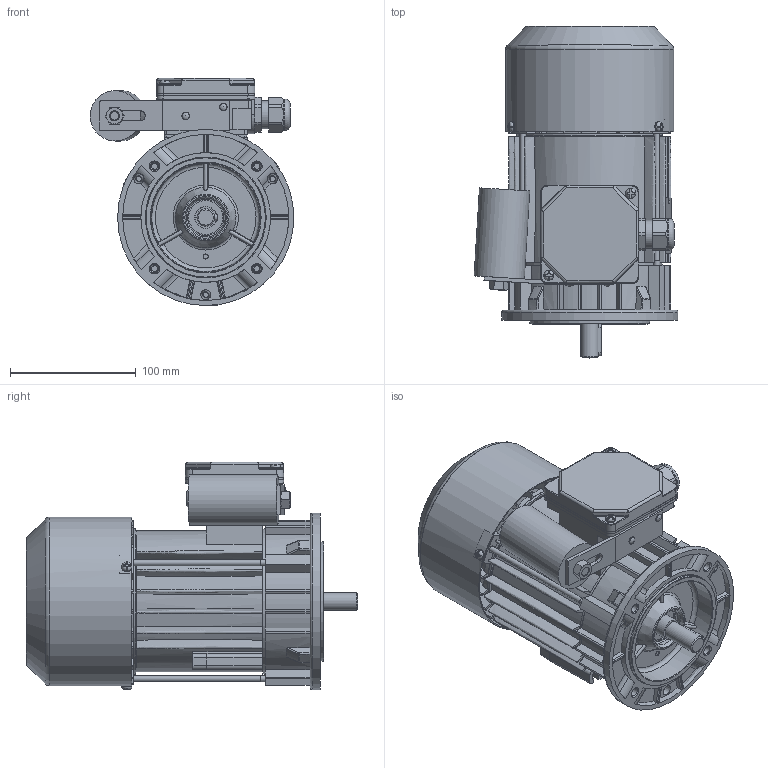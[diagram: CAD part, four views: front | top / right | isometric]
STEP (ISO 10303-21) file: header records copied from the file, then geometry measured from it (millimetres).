
FILE_DESCRIPTION(/* description */ ('Unknown'),/* implementation_level */ '2;1');
FILE_NAME(/* name */ '3SSIEK71-2B1',/* time_stamp */ '2024-06-28T13:08:26+02:00',/* author */ ('Unknown'),/* organization */ ('Unknown'),/* preprocessor_version */ 'ST-DEVELOPER v16.7',/* originating_system */ 'Solid Edge',/* authorisation */ 'Unknown');
FILE_SCHEMA (('AUTOMOTIVE_DESIGN {1 0 10303 214 3 1 1}'));
Length unit declared in the file: millimetre
Products named in the file (25): SEKh71-C1; K1-1194 Kad³ub z zamkami Sh71-.C; K3-6469 Tarcza 這篡skowa P S(E,M)h71-B,C; skrznka zaciskowa jednofazowa ; K2-1131 Podstawa skrzynki zaciskowej jednofazowa; K4-2820 Uszczelka nr 2 Sh71,80; K2-0860 Pokrywka skrzynki zaciskowej; D³awnica M20x1,5; K4-0898 Tulejka uszczelniaj¹ca; nakrêtka M8; Nit 4x12 po skróceniu; Wkrêt samogwintuj¹cy M4x16; K4-2999 Uchwyt kondensatora; K4-2320 Uszczelka nr 1 Sh71,80; Wkrêt samogwintuj¹cy M4x8; K1-1246 Tarcza ko³nierzowa B14_1 w.m. 71; Œruba œci¹gaj¹ca E_M5x130; Wpust A5x5x25; Nitoko³ek A 2x6; £o¿ysko 6203; k3-4489 Wa³ SKh71 x-2C1; Kondensator zb 11-16uF Comar; K3-3984 Przewietrznik Sh71; K3-2975 Os³ona przewietrznika Sh71-.B,C; Tabliczka znamionowa 32x44
Assembly tree (34 placements, depth 3):
  SEKh71-C1
    K1-1194 Kad³ub z zamkami Sh71-.C
    K3-6469 Tarcza 這篡skowa P S(E,M)h71-B,C
    skrznka zaciskowa jednofazowa 
      K2-1131 Podstawa skrzynki zaciskowej jednofazowa
      K4-2820 Uszczelka nr 2 Sh71,80
      K2-0860 Pokrywka skrzynki zaciskowej
      D³awnica M20x1,5
      K4-0898 Tulejka uszczelniaj¹ca
      nakrêtka M8
      Nit 4x12 po skróceniu  x2
      Wkrêt samogwintuj¹cy M4x16  x2
      K4-2999 Uchwyt kondensatora
    Wkrêt samogwintuj¹cy M4x16  x2
    K4-2320 Uszczelka nr 1 Sh71,80
    Wkrêt samogwintuj¹cy M4x8  x3
    K1-1246 Tarcza ko³nierzowa B14_1 w.m. 71
    Œruba œci¹gaj¹ca E_M5x130  x3
    Wpust A5x5x25
    Nitoko³ek A 2x6  x2
    £o¿ysko 6203  x2
    k3-4489 Wa³ SKh71 x-2C1
    Kondensator zb 11-16uF Comar
    K3-3984 Przewietrznik Sh71
    K3-2975 Os³ona przewietrznika Sh71-.B,C
    Tabliczka znamionowa 32x44
Bounding box: 161.81 x 263.5 x 180.57 mm (x, y, z)
Volume: 782337.1 mm3; surface area: 477085.5 mm2
Topology: 51 solids, 67 shells, 2596 faces, 7004 edges, 4494 vertices
Faces by surface type: plane 1074, cylinder 741, bspline 340, torus 214, cone 177, sphere 50
Full cylindrical faces by diameter (mm): 2 x2, 2.4 x2, 3 x1, 3.7 x7, 3.8 x4, 4 x10, 4.134 x3, 4.3 x2, 4.5 x3, 4.6 x3, 4.8 x4, 5 x7, 5.5 x3, 6 x2, 6.5 x1, 6.647 x1, 6.8 x4, 7 x1, 8 x12, 10 x2, 14 x1, 15.9 x1, 16.1 x1, 16.5 x1, 17 x4, 17.4 x2, 18.376 x1, 18.38 x1, 20 x1, 22 x2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
Entity records: 87116 total; most frequent: CARTESIAN_POINT 26542, ORIENTED_EDGE 12096, DIRECTION 10966, EDGE_CURVE 6048, AXIS2_PLACEMENT_3D 4213, VERTEX_POINT 4017, FACE_BOUND 2825, EDGE_LOOP 2802
